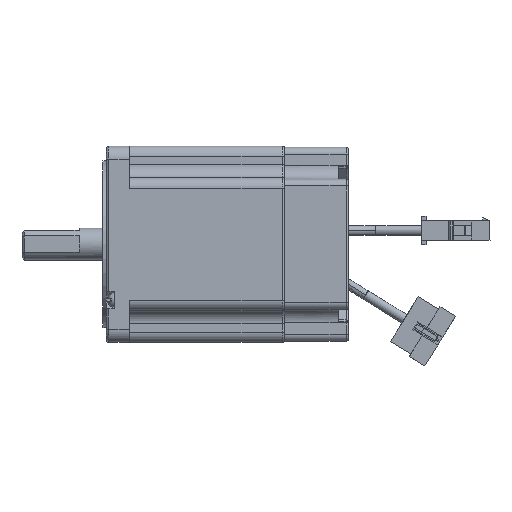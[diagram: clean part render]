
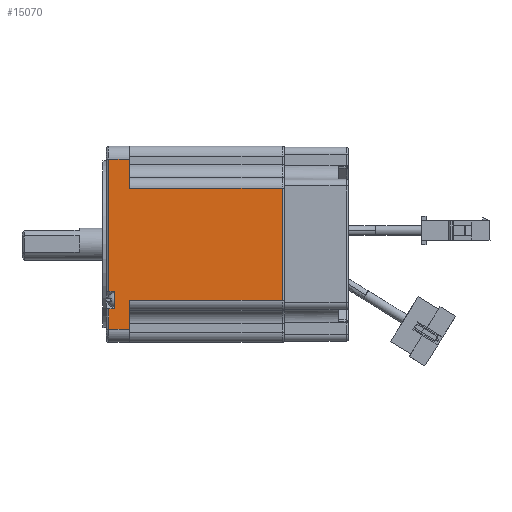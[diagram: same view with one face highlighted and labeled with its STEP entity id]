
A CAD part, front view. The second image highlights one B-rep face of the part: STEP entity #15070.
In plain terms, the highlighted planar face has unit normal (0, -1, 0) as drawn and (0, 1, 0) by its records, which use the part's own axes.
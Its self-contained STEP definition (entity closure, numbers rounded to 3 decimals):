
#480 = VERTEX_POINT ( 'NONE', #14197 ) ;
#644 = EDGE_CURVE ( 'NONE', #15114, #5597, #14331, .T. ) ;
#936 = DIRECTION ( 'NONE',  ( 1., 0., 0. ) ) ;
#1315 = CARTESIAN_POINT ( 'NONE',  ( -56.258, -13.54, 0. ) ) ;
#1412 = DIRECTION ( 'NONE',  ( 0., 0., -1. ) ) ;
#1502 = DIRECTION ( 'NONE',  ( 0., 0., 1. ) ) ;
#1940 = VERTEX_POINT ( 'NONE', #16513 ) ;
#2295 = EDGE_CURVE ( 'NONE', #21616, #4684, #10283, .T. ) ;
#2341 = VECTOR ( 'NONE', #5020, 1000. ) ;
#2414 = ORIENTED_EDGE ( 'NONE', *, *, #16301, .T. ) ;
#2510 = LINE ( 'NONE', #12799, #8542 ) ;
#2796 = VECTOR ( 'NONE', #12616, 1000. ) ;
#2976 = CARTESIAN_POINT ( 'NONE',  ( -119.958, -13.54, -1. ) ) ;
#3158 = EDGE_CURVE ( 'NONE', #480, #16620, #28210, .T. ) ;
#3185 = ORIENTED_EDGE ( 'NONE', *, *, #5880, .T. ) ;
#3790 = ORIENTED_EDGE ( 'NONE', *, *, #17355, .T. ) ;
#4595 = CARTESIAN_POINT ( 'NONE',  ( -101.558, -13.54, -80. ) ) ;
#4684 = VERTEX_POINT ( 'NONE', #16051 ) ;
#4793 = CARTESIAN_POINT ( 'NONE',  ( -119.958, -13.54, -10. ) ) ;
#5020 = DIRECTION ( 'NONE',  ( -1., 0., 0. ) ) ;
#5508 = ORIENTED_EDGE ( 'NONE', *, *, #644, .T. ) ;
#5597 = VERTEX_POINT ( 'NONE', #26039 ) ;
#5809 = VECTOR ( 'NONE', #21179, 1000. ) ;
#5880 = EDGE_CURVE ( 'NONE', #26055, #15114, #11157, .T. ) ;
#6250 = VERTEX_POINT ( 'NONE', #15676 ) ;
#6859 = DIRECTION ( 'NONE',  ( 0., 0., -1. ) ) ;
#6932 = CARTESIAN_POINT ( 'NONE',  ( -119.958, -13.54, 0. ) ) ;
#7038 = VECTOR ( 'NONE', #10287, 1000. ) ;
#7768 = VECTOR ( 'NONE', #10716, 1000. ) ;
#7977 = CARTESIAN_POINT ( 'NONE',  ( -114.258, -13.54, 0. ) ) ;
#8468 = DIRECTION ( 'NONE',  ( 1., 0., 0. ) ) ;
#8542 = VECTOR ( 'NONE', #1502, 1000. ) ;
#8738 = VECTOR ( 'NONE', #8468, 1000. ) ;
#9034 = VECTOR ( 'NONE', #9729, 1000. ) ;
#9515 = CARTESIAN_POINT ( 'NONE',  ( -52.358, -13.54, 0. ) ) ;
#9542 = DIRECTION ( 'NONE',  ( 0., 0., -1. ) ) ;
#9729 = DIRECTION ( 'NONE',  ( 1., 0., 0. ) ) ;
#9760 = VECTOR ( 'NONE', #9542, 1000. ) ;
#9982 = ORIENTED_EDGE ( 'NONE', *, *, #2295, .T. ) ;
#10042 = ORIENTED_EDGE ( 'NONE', *, *, #11177, .F. ) ;
#10055 = CARTESIAN_POINT ( 'NONE',  ( -119.958, -13.54, -3.5 ) ) ;
#10283 = LINE ( 'NONE', #12592, #2796 ) ;
#10287 = DIRECTION ( 'NONE',  ( 0., 0., 1. ) ) ;
#10716 = DIRECTION ( 'NONE',  ( 0., 0., -1. ) ) ;
#11157 = LINE ( 'NONE', #21222, #5809 ) ;
#11177 = EDGE_CURVE ( 'NONE', #1940, #5597, #23628, .T. ) ;
#11518 = PLANE ( 'NONE',  #18398 ) ;
#11587 = CARTESIAN_POINT ( 'NONE',  ( -114.258, -13.54, -1. ) ) ;
#11783 = VECTOR ( 'NONE', #1412, 1000. ) ;
#11907 = EDGE_CURVE ( 'NONE', #16620, #6250, #27366, .T. ) ;
#11934 = ORIENTED_EDGE ( 'NONE', *, *, #20476, .T. ) ;
#12168 = EDGE_CURVE ( 'NONE', #19308, #28814, #14370, .T. ) ;
#12592 = CARTESIAN_POINT ( 'NONE',  ( -119.958, -13.54, -1. ) ) ;
#12616 = DIRECTION ( 'NONE',  ( 1., 0., 0. ) ) ;
#12799 = CARTESIAN_POINT ( 'NONE',  ( -48.658, -13.54, 0. ) ) ;
#13006 = CARTESIAN_POINT ( 'NONE',  ( -39.658, -13.54, -10. ) ) ;
#13076 = LINE ( 'NONE', #24190, #7768 ) ;
#13161 = CARTESIAN_POINT ( 'NONE',  ( -114.258, -13.54, -10. ) ) ;
#13760 = DIRECTION ( 'NONE',  ( 0., 0., 1. ) ) ;
#14197 = CARTESIAN_POINT ( 'NONE',  ( -56.258, -13.54, -1. ) ) ;
#14331 = LINE ( 'NONE', #9515, #9760 ) ;
#14370 = LINE ( 'NONE', #4793, #2341 ) ;
#14479 = ORIENTED_EDGE ( 'NONE', *, *, #11907, .T. ) ;
#15031 = LINE ( 'NONE', #2976, #9034 ) ;
#15070 = ADVANCED_FACE ( 'NONE', ( #18467 ), #11518, .T. ) ;
#15114 = VERTEX_POINT ( 'NONE', #25093 ) ;
#15519 = VECTOR ( 'NONE', #936, 1000. ) ;
#15676 = CARTESIAN_POINT ( 'NONE',  ( -48.658, -13.54, -3.5 ) ) ;
#16051 = CARTESIAN_POINT ( 'NONE',  ( -39.658, -13.54, -1. ) ) ;
#16301 = EDGE_CURVE ( 'NONE', #6250, #21616, #2510, .T. ) ;
#16341 = CARTESIAN_POINT ( 'NONE',  ( -56.258, -13.54, -3.5 ) ) ;
#16513 = CARTESIAN_POINT ( 'NONE',  ( -101.558, -13.54, -77. ) ) ;
#16620 = VERTEX_POINT ( 'NONE', #16341 ) ;
#17355 = EDGE_CURVE ( 'NONE', #4684, #26055, #13076, .T. ) ;
#18367 = ORIENTED_EDGE ( 'NONE', *, *, #12168, .T. ) ;
#18398 = AXIS2_PLACEMENT_3D ( 'NONE', #6932, #27199, #13760 ) ;
#18467 = FACE_OUTER_BOUND ( 'NONE', #18938, .T. ) ;
#18938 = EDGE_LOOP ( 'NONE', ( #3790, #3185, #5508, #10042, #26627, #18367, #11934, #27938, #22637, #14479, #2414, #9982 ) ) ;
#19308 = VERTEX_POINT ( 'NONE', #20927 ) ;
#19862 = CARTESIAN_POINT ( 'NONE',  ( -48.658, -13.54, -1. ) ) ;
#20292 = VERTEX_POINT ( 'NONE', #11587 ) ;
#20476 = EDGE_CURVE ( 'NONE', #28814, #20292, #25060, .T. ) ;
#20927 = CARTESIAN_POINT ( 'NONE',  ( -101.558, -13.54, -10. ) ) ;
#21179 = DIRECTION ( 'NONE',  ( -1., 0., 0. ) ) ;
#21222 = CARTESIAN_POINT ( 'NONE',  ( -119.958, -13.54, -10. ) ) ;
#21616 = VERTEX_POINT ( 'NONE', #19862 ) ;
#21778 = VECTOR ( 'NONE', #6859, 1000. ) ;
#22637 = ORIENTED_EDGE ( 'NONE', *, *, #3158, .T. ) ;
#23174 = LINE ( 'NONE', #4595, #21778 ) ;
#23544 = EDGE_CURVE ( 'NONE', #20292, #480, #15031, .T. ) ;
#23628 = LINE ( 'NONE', #24702, #15519 ) ;
#24190 = CARTESIAN_POINT ( 'NONE',  ( -39.658, -13.54, 0. ) ) ;
#24702 = CARTESIAN_POINT ( 'NONE',  ( 0., -13.54, -77. ) ) ;
#25060 = LINE ( 'NONE', #7977, #7038 ) ;
#25093 = CARTESIAN_POINT ( 'NONE',  ( -52.358, -13.54, -10. ) ) ;
#26039 = CARTESIAN_POINT ( 'NONE',  ( -52.358, -13.54, -77. ) ) ;
#26055 = VERTEX_POINT ( 'NONE', #13006 ) ;
#26627 = ORIENTED_EDGE ( 'NONE', *, *, #27897, .F. ) ;
#27199 = DIRECTION ( 'NONE',  ( 0., 1., 0. ) ) ;
#27366 = LINE ( 'NONE', #10055, #8738 ) ;
#27897 = EDGE_CURVE ( 'NONE', #19308, #1940, #23174, .T. ) ;
#27938 = ORIENTED_EDGE ( 'NONE', *, *, #23544, .T. ) ;
#28210 = LINE ( 'NONE', #1315, #11783 ) ;
#28814 = VERTEX_POINT ( 'NONE', #13161 ) ;
